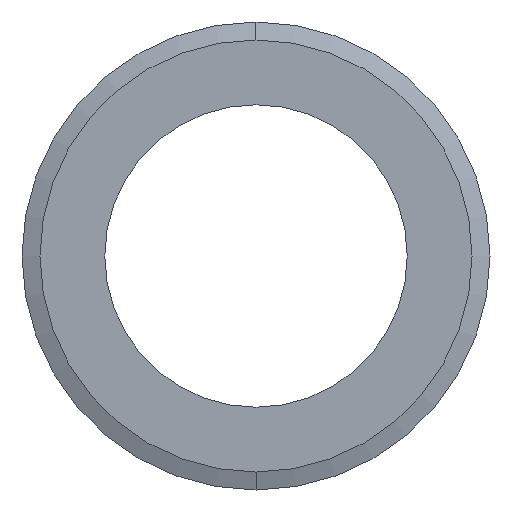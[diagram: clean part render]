
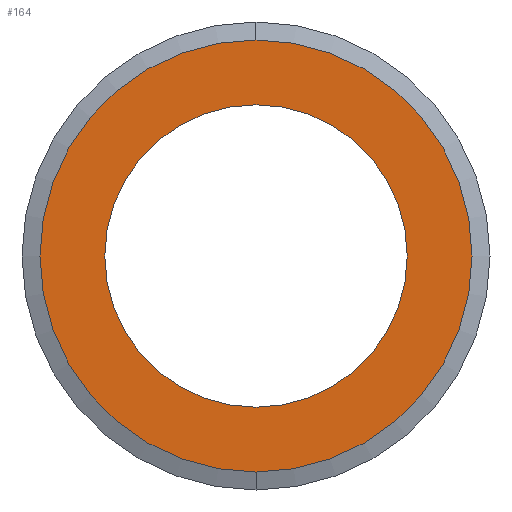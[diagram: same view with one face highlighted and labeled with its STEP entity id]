
A CAD part, left-side view. The second image highlights one B-rep face of the part: STEP entity #164.
In plain terms, the highlighted planar face has unit normal (-1, 0, 0).
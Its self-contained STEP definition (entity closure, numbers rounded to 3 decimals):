
#10 = CARTESIAN_POINT ( 'NONE',  ( 0., 0., -21. ) ) ;
#41 = PLANE ( 'NONE',  #522 ) ;
#72 = DIRECTION ( 'NONE',  ( 0., 0., -1. ) ) ;
#82 = DIRECTION ( 'NONE',  ( 1., 0., 0. ) ) ;
#98 = CARTESIAN_POINT ( 'NONE',  ( 0., 0., 0. ) ) ;
#164 = ADVANCED_FACE ( 'NONE', ( #953, #1689 ), #41, .F. ) ;
#195 = CARTESIAN_POINT ( 'NONE',  ( 0., 0., 30. ) ) ;
#293 = ORIENTED_EDGE ( 'NONE', *, *, #1307, .T. ) ;
#328 = AXIS2_PLACEMENT_3D ( 'NONE', #98, #82, #72 ) ;
#350 = DIRECTION ( 'NONE',  ( 0., 0., -1. ) ) ;
#448 = DIRECTION ( 'NONE',  ( -1., 0., 0. ) ) ;
#487 = CARTESIAN_POINT ( 'NONE',  ( 0., 0., 0. ) ) ;
#522 = AXIS2_PLACEMENT_3D ( 'NONE', #910, #764, #1766 ) ;
#527 = EDGE_LOOP ( 'NONE', ( #1395, #293 ) ) ;
#535 = VERTEX_POINT ( 'NONE', #195 ) ;
#569 = AXIS2_PLACEMENT_3D ( 'NONE', #487, #1362, #350 ) ;
#584 = CARTESIAN_POINT ( 'NONE',  ( 0., 0., 0. ) ) ;
#590 = DIRECTION ( 'NONE',  ( -1., 0., 0. ) ) ;
#597 = DIRECTION ( 'NONE',  ( 0., 0., 1. ) ) ;
#622 = EDGE_LOOP ( 'NONE', ( #675, #1438 ) ) ;
#675 = ORIENTED_EDGE ( 'NONE', *, *, #729, .T. ) ;
#679 = CIRCLE ( 'NONE', #569, 21. ) ;
#692 = CARTESIAN_POINT ( 'NONE',  ( 0., 0., -30. ) ) ;
#729 = EDGE_CURVE ( 'NONE', #535, #1409, #1336, .T. ) ;
#764 = DIRECTION ( 'NONE',  ( 1., 0., 0. ) ) ;
#850 = EDGE_CURVE ( 'NONE', #1813, #1622, #679, .T. ) ;
#910 = CARTESIAN_POINT ( 'NONE',  ( 0., 0., 0. ) ) ;
#952 = CIRCLE ( 'NONE', #1263, 30. ) ;
#953 = FACE_BOUND ( 'NONE', #527, .T. ) ;
#1083 = AXIS2_PLACEMENT_3D ( 'NONE', #1302, #448, #1594 ) ;
#1123 = CIRCLE ( 'NONE', #328, 21. ) ;
#1263 = AXIS2_PLACEMENT_3D ( 'NONE', #584, #590, #597 ) ;
#1290 = CARTESIAN_POINT ( 'NONE',  ( 0., 0., 21. ) ) ;
#1302 = CARTESIAN_POINT ( 'NONE',  ( 0., 0., 0. ) ) ;
#1307 = EDGE_CURVE ( 'NONE', #1622, #1813, #1123, .T. ) ;
#1336 = CIRCLE ( 'NONE', #1083, 30. ) ;
#1362 = DIRECTION ( 'NONE',  ( 1., 0., 0. ) ) ;
#1395 = ORIENTED_EDGE ( 'NONE', *, *, #850, .T. ) ;
#1409 = VERTEX_POINT ( 'NONE', #692 ) ;
#1438 = ORIENTED_EDGE ( 'NONE', *, *, #1623, .T. ) ;
#1594 = DIRECTION ( 'NONE',  ( 0., 0., 1. ) ) ;
#1622 = VERTEX_POINT ( 'NONE', #1290 ) ;
#1623 = EDGE_CURVE ( 'NONE', #1409, #535, #952, .T. ) ;
#1689 = FACE_OUTER_BOUND ( 'NONE', #622, .T. ) ;
#1766 = DIRECTION ( 'NONE',  ( 0., 0., -1. ) ) ;
#1813 = VERTEX_POINT ( 'NONE', #10 ) ;
